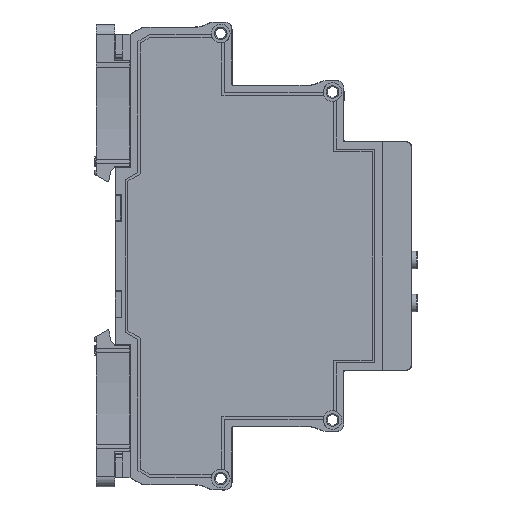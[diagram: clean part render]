
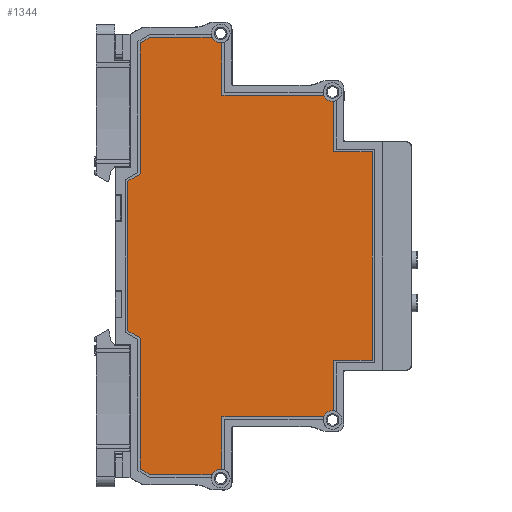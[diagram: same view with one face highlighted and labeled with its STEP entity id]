
A CAD part, front view. The second image highlights one B-rep face of the part: STEP entity #1344.
In plain terms, the highlighted planar face has unit normal (0, -1, 0) as drawn and (1, 0, 0) by its records, which use the part's own axes.
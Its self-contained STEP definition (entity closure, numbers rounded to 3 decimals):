
#1344=ADVANCED_FACE('',(#32150),#32152,.T.);
#32150=FACE_BOUND('',#32151,.T.);
#32151=EDGE_LOOP('',(#56808,#56809,#56810,#56811,#56812,#56813,#56814,#56815,#56816,
#56817,#56818,#56819,#56820,#56821,#56822,#56823,#56824,#56825,#56826,#56827,#56828,
#56829));
#32152=PLANE('',#32153);
#32153=AXIS2_PLACEMENT_3D('',#32154,#32155,#32156);
#32154=CARTESIAN_POINT('',(6.5,0.,0.));
#32155=DIRECTION('',(1.,0.,0.));
#32156=DIRECTION('',(0.,0.,-1.));
#56808=ORIENTED_EDGE('',*,*,#76772,.F.);
#56809=ORIENTED_EDGE('',*,*,#76773,.T.);
#56810=ORIENTED_EDGE('',*,*,#76690,.F.);
#56811=ORIENTED_EDGE('',*,*,#76774,.T.);
#56812=ORIENTED_EDGE('',*,*,#76775,.T.);
#56813=ORIENTED_EDGE('',*,*,#76776,.T.);
#56814=ORIENTED_EDGE('',*,*,#76777,.T.);
#56815=ORIENTED_EDGE('',*,*,#76778,.T.);
#56816=ORIENTED_EDGE('',*,*,#76674,.F.);
#56817=ORIENTED_EDGE('',*,*,#76779,.F.);
#56818=ORIENTED_EDGE('',*,*,#76780,.T.);
#56819=ORIENTED_EDGE('',*,*,#76684,.F.);
#56820=ORIENTED_EDGE('',*,*,#76781,.T.);
#56821=ORIENTED_EDGE('',*,*,#76782,.F.);
#56822=ORIENTED_EDGE('',*,*,#76783,.T.);
#56823=ORIENTED_EDGE('',*,*,#76784,.T.);
#56824=ORIENTED_EDGE('',*,*,#76785,.T.);
#56825=ORIENTED_EDGE('',*,*,#76786,.T.);
#56826=ORIENTED_EDGE('',*,*,#76787,.T.);
#56827=ORIENTED_EDGE('',*,*,#76788,.F.);
#56828=ORIENTED_EDGE('',*,*,#76789,.T.);
#56829=ORIENTED_EDGE('',*,*,#76700,.F.);
#76674=EDGE_CURVE('',#86328,#86313,#86330,.T.);
#76684=EDGE_CURVE('',#86348,#86333,#86350,.T.);
#76690=EDGE_CURVE('',#86360,#86362,#86363,.T.);
#76700=EDGE_CURVE('',#86380,#86382,#86383,.T.);
#76772=EDGE_CURVE('',#86521,#86380,#86522,.T.);
#76773=EDGE_CURVE('',#86521,#86362,#86523,.T.);
#76774=EDGE_CURVE('',#86360,#86524,#86525,.T.);
#76775=EDGE_CURVE('',#86524,#86526,#86527,.T.);
#76776=EDGE_CURVE('',#86526,#86528,#86529,.T.);
#76777=EDGE_CURVE('',#86528,#86530,#86531,.T.);
#76778=EDGE_CURVE('',#86530,#86313,#86532,.T.);
#76779=EDGE_CURVE('',#86533,#86328,#86534,.T.);
#76780=EDGE_CURVE('',#86533,#86333,#86535,.T.);
#76781=EDGE_CURVE('',#86348,#86536,#86537,.T.);
#76782=EDGE_CURVE('',#86538,#86536,#86539,.T.);
#76783=EDGE_CURVE('',#86538,#86540,#86541,.T.);
#76784=EDGE_CURVE('',#86540,#86542,#86543,.T.);
#76785=EDGE_CURVE('',#86542,#86544,#86545,.T.);
#76786=EDGE_CURVE('',#86544,#86546,#86547,.T.);
#76787=EDGE_CURVE('',#86546,#86548,#86549,.T.);
#76788=EDGE_CURVE('',#86550,#86548,#86551,.T.);
#76789=EDGE_CURVE('',#86550,#86382,#86552,.T.);
#86313=VERTEX_POINT('',#102940);
#86328=VERTEX_POINT('',#102973);
#86330=CIRCLE('',#102977,1.85);
#86333=VERTEX_POINT('',#102986);
#86348=VERTEX_POINT('',#103019);
#86350=CIRCLE('',#103023,1.85);
#86360=VERTEX_POINT('',#103047);
#86362=VERTEX_POINT('',#103051);
#86363=CIRCLE('',#103052,1.85);
#86380=VERTEX_POINT('',#103093);
#86382=VERTEX_POINT('',#103097);
#86383=CIRCLE('',#103098,1.85);
#86521=VERTEX_POINT('',#103402);
#86522=LINE('',#103403,#103404);
#86523=LINE('',#103406,#103407);
#86524=VERTEX_POINT('',#103409);
#86525=LINE('',#103410,#103411);
#86526=VERTEX_POINT('',#103413);
#86527=LINE('',#103414,#103415);
#86528=VERTEX_POINT('',#103417);
#86529=LINE('',#103418,#103419);
#86530=VERTEX_POINT('',#103421);
#86531=LINE('',#103422,#103423);
#86532=LINE('',#103425,#103426);
#86533=VERTEX_POINT('',#103428);
#86534=LINE('',#103429,#103430);
#86535=LINE('',#103432,#103433);
#86536=VERTEX_POINT('',#103435);
#86537=LINE('',#103436,#103437);
#86538=VERTEX_POINT('',#103439);
#86539=LINE('',#103440,#103441);
#86540=VERTEX_POINT('',#103443);
#86541=LINE('',#103444,#103445);
#86542=VERTEX_POINT('',#103447);
#86543=LINE('',#103448,#103449);
#86544=VERTEX_POINT('',#103451);
#86545=LINE('',#103452,#103453);
#86546=VERTEX_POINT('',#103455);
#86547=LINE('',#103456,#103457);
#86548=VERTEX_POINT('',#103459);
#86549=LINE('',#103460,#103461);
#86550=VERTEX_POINT('',#103463);
#86551=LINE('',#103464,#103465);
#86552=LINE('',#103467,#103468);
#102940=CARTESIAN_POINT('',(6.5,-30.541,38.985));
#102973=CARTESIAN_POINT('',(6.5,-31.7,37.015));
#102977=AXIS2_PLACEMENT_3D('',#102978,#102979,#102980);
#102978=CARTESIAN_POINT('',(6.5,-32.375,38.738));
#102979=DIRECTION('',(1.,0.,0.));
#102980=DIRECTION('',(0.,0.365,-0.931));
#102986=CARTESIAN_POINT('',(6.5,-42.103,16.897));
#103019=CARTESIAN_POINT('',(6.5,-43.2,14.953));
#103023=AXIS2_PLACEMENT_3D('',#103024,#103025,#103026);
#103024=CARTESIAN_POINT('',(6.5,-43.937,16.65));
#103025=DIRECTION('',(1.,0.,0.));
#103026=DIRECTION('',(0.,0.398,-0.917));
#103047=CARTESIAN_POINT('',(6.5,30.541,38.985));
#103051=CARTESIAN_POINT('',(6.5,31.7,37.015));
#103052=AXIS2_PLACEMENT_3D('',#103053,#103054,#103055);
#103053=CARTESIAN_POINT('',(6.5,32.375,38.738));
#103054=DIRECTION('',(1.,0.,0.));
#103055=DIRECTION('',(0.,-0.991,0.134));
#103093=CARTESIAN_POINT('',(6.5,42.103,16.897));
#103097=CARTESIAN_POINT('',(6.5,43.2,14.953));
#103098=AXIS2_PLACEMENT_3D('',#103099,#103100,#103101);
#103099=CARTESIAN_POINT('',(6.5,43.937,16.65));
#103100=DIRECTION('',(1.,0.,0.));
#103101=DIRECTION('',(0.,-0.991,0.134));
#103402=CARTESIAN_POINT('',(6.5,31.7,16.897));
#103403=CARTESIAN_POINT('',(6.5,31.7,16.897));
#103404=VECTOR('',#103405,1.);
#103405=DIRECTION('',(0.,1.,0.));
#103406=CARTESIAN_POINT('',(6.5,31.7,16.897));
#103407=VECTOR('',#103408,1.);
#103408=DIRECTION('',(0.,0.,1.));
#103409=CARTESIAN_POINT('',(6.5,20.6,38.985));
#103410=CARTESIAN_POINT('',(6.5,30.541,38.985));
#103411=VECTOR('',#103412,1.);
#103412=DIRECTION('',(0.,-1.,0.));
#103413=CARTESIAN_POINT('',(6.5,20.6,46.53));
#103414=CARTESIAN_POINT('',(6.5,20.6,38.985));
#103415=VECTOR('',#103416,1.);
#103416=DIRECTION('',(0.,0.,1.));
#103417=CARTESIAN_POINT('',(6.5,-20.6,46.53));
#103418=CARTESIAN_POINT('',(6.5,20.6,46.53));
#103419=VECTOR('',#103420,1.);
#103420=DIRECTION('',(0.,-1.,0.));
#103421=CARTESIAN_POINT('',(6.5,-20.6,38.985));
#103422=CARTESIAN_POINT('',(6.5,-20.6,46.53));
#103423=VECTOR('',#103424,1.);
#103424=DIRECTION('',(0.,0.,-1.));
#103425=CARTESIAN_POINT('',(6.5,-20.6,38.985));
#103426=VECTOR('',#103427,1.);
#103427=DIRECTION('',(0.,-1.,0.));
#103428=CARTESIAN_POINT('',(6.5,-31.7,16.897));
#103429=CARTESIAN_POINT('',(6.5,-31.7,16.897));
#103430=VECTOR('',#103431,1.);
#103431=DIRECTION('',(0.,0.,1.));
#103432=CARTESIAN_POINT('',(6.5,-31.7,16.897));
#103433=VECTOR('',#103434,1.);
#103434=DIRECTION('',(0.,-1.,0.));
#103435=CARTESIAN_POINT('',(6.5,-43.2,2.761));
#103436=CARTESIAN_POINT('',(6.5,-43.2,14.953));
#103437=VECTOR('',#103438,1.);
#103438=DIRECTION('',(0.,0.,-1.));
#103439=CARTESIAN_POINT('',(6.5,-42.068,0.8));
#103440=CARTESIAN_POINT('',(6.5,-42.068,0.8));
#103441=VECTOR('',#103442,1.);
#103442=DIRECTION('',(0.,-0.5,0.866));
#103443=CARTESIAN_POINT('',(6.5,-16.211,0.8));
#103444=CARTESIAN_POINT('',(6.5,-42.068,0.8));
#103445=VECTOR('',#103446,1.);
#103446=DIRECTION('',(0.,1.,0.));
#103447=CARTESIAN_POINT('',(6.5,-14.768,-1.7));
#103448=CARTESIAN_POINT('',(6.5,-16.211,0.8));
#103449=VECTOR('',#103450,1.);
#103450=DIRECTION('',(0.,0.5,-0.866));
#103451=CARTESIAN_POINT('',(6.5,14.768,-1.7));
#103452=CARTESIAN_POINT('',(6.5,-14.768,-1.7));
#103453=VECTOR('',#103454,1.);
#103454=DIRECTION('',(0.,1.,0.));
#103455=CARTESIAN_POINT('',(6.5,16.211,0.8));
#103456=CARTESIAN_POINT('',(6.5,14.768,-1.7));
#103457=VECTOR('',#103458,1.);
#103458=DIRECTION('',(0.,0.5,0.866));
#103459=CARTESIAN_POINT('',(6.5,42.068,0.8));
#103460=CARTESIAN_POINT('',(6.5,16.211,0.8));
#103461=VECTOR('',#103462,1.);
#103462=DIRECTION('',(0.,1.,0.));
#103463=CARTESIAN_POINT('',(6.5,43.2,2.761));
#103464=CARTESIAN_POINT('',(6.5,43.2,2.761));
#103465=VECTOR('',#103466,1.);
#103466=DIRECTION('',(0.,-0.5,-0.866));
#103467=CARTESIAN_POINT('',(6.5,43.2,2.761));
#103468=VECTOR('',#103469,1.);
#103469=DIRECTION('',(0.,0.,1.));
